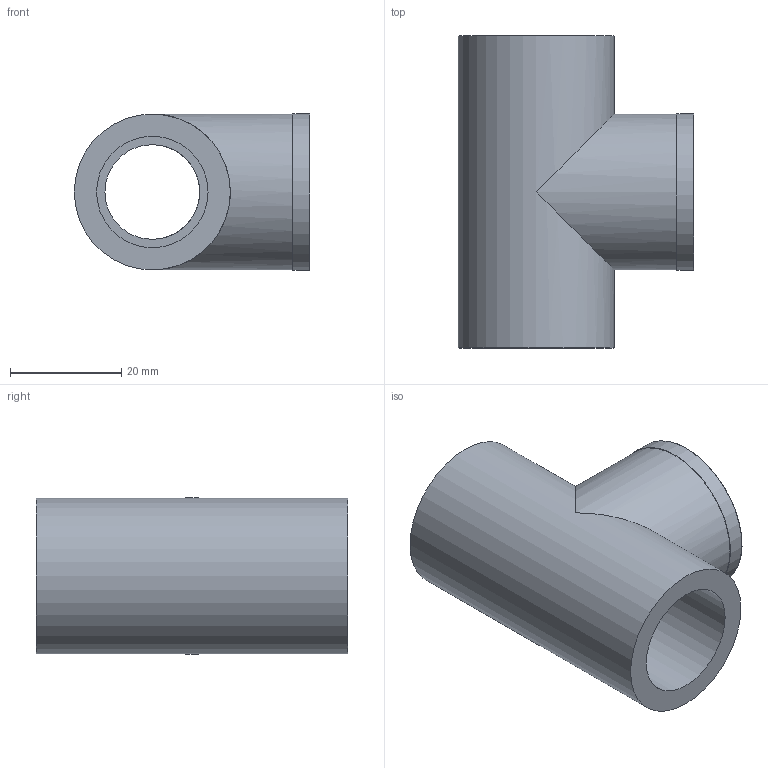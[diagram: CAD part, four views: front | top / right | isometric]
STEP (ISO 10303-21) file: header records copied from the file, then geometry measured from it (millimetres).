
FILE_DESCRIPTION(/* description */ (''),/* implementation_level */ '2;1');
FILE_NAME(/* name */ 'C:\Users\POLYPIPE\Desktop\DATASET INVENTOR\LIBRERIA EFFAST\RACCORDI 3DxWEB\RGR\3D_RGRTIR\3D_RGRTIR020B.stp',/* time_stamp */ '2018-01-19T17:55:17+01:00',/* author */ ('POLYPIPE'),/* organization */ (''),/* preprocessor_version */ 'ST-DEVELOPER v16.1',/* originating_system */ 'Autodesk Inventor 2016',/* authorisation */ '');
FILE_SCHEMA (('CONFIG_CONTROL_DESIGN'));
Length unit declared in the file: centimetre
Products named in the file (1): 3D_RGRTIR020B
Bounding box: 42.25 x 56 x 28.18 mm (x, y, z)
Volume: 22902.7 mm3; surface area: 11988.9 mm2
Topology: 1 solids, 1 shells, 24 faces, 48 edges, 32 vertices
Faces by surface type: cylinder 9, plane 9, bspline 5, torus 1
Full cylindrical faces by diameter (mm): 17 x2, 18.631 x1, 20 x2, 23 x1, 28 x2, 28.2 x1
Entity records: 3631 total; most frequent: CARTESIAN_POINT 3118, DIRECTION 89, ORIENTED_EDGE 74, EDGE_LOOP 43, AXIS2_PLACEMENT_3D 43, EDGE_CURVE 37, VERTEX_POINT 30, STYLED_ITEM 25
